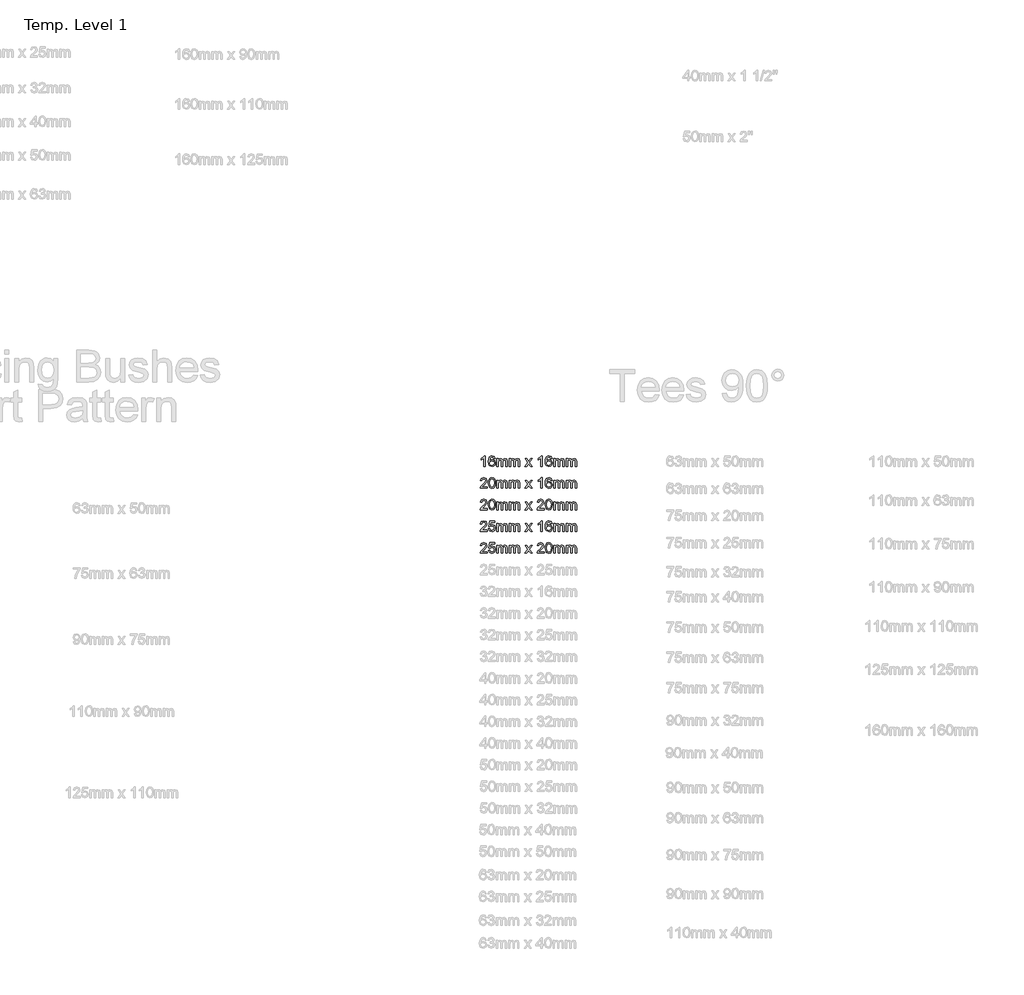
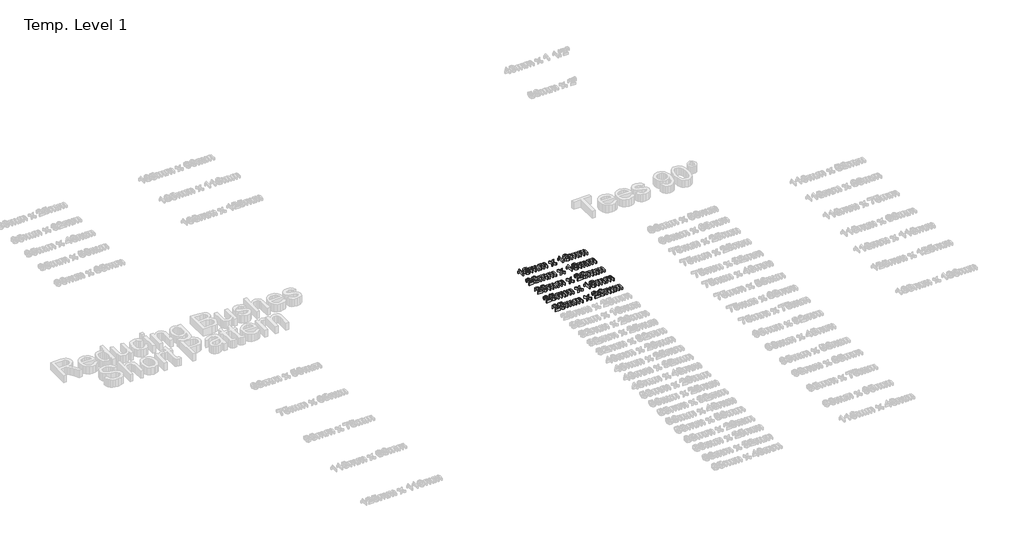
# One storey, part 42 of 62: 5 proxies.
"""IFC4 building model written with IfcOpenShell, lengths in millimetres."""

from ifc_helpers import new_model, si_unit, origin, origin_with_axes, place, context, project, spatial, polyline, outline, extrude, element, save

model = new_model("IFC4")

# Units and contexts
model_context = context("Model", 3, world=origin())
ifc_project = project(units=[si_unit("LENGTHUNIT", "METRE", prefix="MILLI")], contexts=[model_context])

# Site, building, storey
site = spatial("IfcSite", under=ifc_project)
building = spatial("IfcBuilding", under=site)
storey = spatial("IfcBuildingStorey", under=building, Name="Temp. Level 1", Elevation=0.0)

# Proxies
placement = place(None, origin())
element("IfcBuildingElementProxy", 1, Name="50mm Arial", ObjectType="50mm Arial", at=placement, inside=storey, context=model_context, shape_type="SweptSolid", body=[
    extrude(outline(polyline([(26438.7955575, -7369.5564984), (26432.6417113, -7369.5564984), (26432.6417113, -7331.1911138), (26426.8123844, -7335.3437581), (26420.334019, -7338.4507292), (26420.334019, -7332.6334215), (26429.3544517, -7326.87621), (26434.8292113, -7320.3257292), (26438.7955575, -7320.3257292), (26438.7955575, -7369.5564984)])), origin_with_axes(), (0.0, 0.0, 1.0), 15.0),
    extrude(outline(polyline([(26484.9494036, -7333.4026523), (26478.7955575, -7334.1718831), (26476.4638267, -7329.0396715), (26470.2979613, -7326.4795754), (26464.7450767, -7327.96996), (26460.5443556, -7333.5649119), (26458.7955575, -7344.53246), (26464.2222402, -7339.6226042), (26470.9469998, -7338.0180369), (26481.4037306, -7342.4050561), (26485.7186344, -7353.7391908), (26483.6873844, -7362.2307773), (26478.0984421, -7368.2403927), (26470.0335383, -7370.3257292), (26457.491471, -7364.7968831), (26453.8541512, -7357.4771715), (26452.6417113, -7346.5757292), (26453.9878652, -7334.3191186), (26458.0263267, -7325.93871), (26463.5401488, -7321.7289744), (26470.6825767, -7320.3257292), (26480.4061344, -7323.7992869), (26484.9494036, -7333.4026523)]), holes=[polyline([(26458.7955575, -7353.6430369), (26460.2198363, -7358.9735658), (26464.005894, -7362.8437581), (26469.552769, -7364.1718831), (26476.8063748, -7361.4194792), (26479.5647883, -7353.9435177), (26476.8424325, -7346.7860658), (26469.3003652, -7344.1718831), (26461.8544517, -7346.7860658), (26458.7955575, -7353.6430369)])]), origin_with_axes(), (0.0, 0.0, 1.0), 15.0),
    extrude(outline(polyline([(26492.6417113, -7369.5564984), (26492.6417113, -7333.4026523), (26498.7955575, -7333.4026523), (26498.7955575, -7339.3521715), (26503.0263267, -7334.4783734), (26509.0479613, -7332.6334215), (26515.2138267, -7334.5144311), (26518.6032498, -7339.7848638), (26523.4049325, -7334.4212821), (26529.4686344, -7332.6334215), (26537.5155094, -7335.6081811), (26540.334019, -7344.7728446), (26540.334019, -7369.5564984), (26534.1801729, -7369.5564984), (26534.1801729, -7347.4170754), (26533.6092594, -7342.2788542), (26531.5419517, -7339.7488061), (26528.0263267, -7338.7872677), (26521.974644, -7341.25121), (26519.5647883, -7349.1478446), (26519.5647883, -7369.5564984), (26513.4109421, -7369.5564984), (26513.4109421, -7346.7319792), (26511.9866633, -7340.7704408), (26507.3171921, -7338.7872677), (26502.7619036, -7340.1093831), (26499.7330575, -7343.9795754), (26498.7955575, -7351.3233254), (26498.7955575, -7369.5564984), (26492.6417113, -7369.5564984)])), origin_with_axes(), (0.0, 0.0, 1.0), 15.0),
    extrude(outline(polyline([(26549.5647883, -7369.5564984), (26549.5647883, -7333.4026523), (26555.7186344, -7333.4026523), (26555.7186344, -7339.3521715), (26559.9494036, -7334.4783734), (26565.9710383, -7332.6334215), (26572.1369036, -7334.5144311), (26575.5263267, -7339.7848638), (26580.3280094, -7334.4212821), (26586.3917113, -7332.6334215), (26594.4385863, -7335.6081811), (26597.257096, -7344.7728446), (26597.257096, -7369.5564984), (26591.1032498, -7369.5564984), (26591.1032498, -7347.4170754), (26590.5323363, -7342.2788542), (26588.4650286, -7339.7488061), (26584.9494036, -7338.7872677), (26578.897721, -7341.25121), (26576.4878652, -7349.1478446), (26576.4878652, -7369.5564984), (26570.334019, -7369.5564984), (26570.334019, -7346.7319792), (26568.9097402, -7340.7704408), (26564.240269, -7338.7872677), (26559.6849806, -7340.1093831), (26556.6561344, -7343.9795754), (26555.7186344, -7351.3233254), (26555.7186344, -7369.5564984), (26549.5647883, -7369.5564984)])), origin_with_axes(), (0.0, 0.0, 1.0), 15.0),
    extrude(outline(polyline([(26621.8724806, -7369.5564984), (26635.021519, -7351.3834215), (26622.6417113, -7333.4026523), (26630.0455575, -7333.4026523), (26636.0191152, -7342.0564984), (26638.8075767, -7346.1430369), (26641.2234421, -7342.8016908), (26648.0263267, -7333.4026523), (26655.4301729, -7333.4026523), (26642.4253652, -7351.3834215), (26654.9494036, -7369.5564984), (26647.5455575, -7369.5564984), (26640.0094998, -7358.6310177), (26638.6272883, -7356.6358254), (26629.2763267, -7369.5564984), (26621.8724806, -7369.5564984)])), origin_with_axes(), (0.0, 0.0, 1.0), 15.0),
    extrude(outline(polyline([(26701.1032498, -7369.5564984), (26694.9494036, -7369.5564984), (26694.9494036, -7331.1911138), (26689.1200767, -7335.3437581), (26682.6417113, -7338.4507292), (26682.6417113, -7332.6334215), (26691.662144, -7326.87621), (26697.1369036, -7320.3257292), (26701.1032498, -7320.3257292), (26701.1032498, -7369.5564984)])), origin_with_axes(), (0.0, 0.0, 1.0), 15.0),
    extrude(outline(polyline([(26747.257096, -7333.4026523), (26741.1032498, -7334.1718831), (26738.771519, -7329.0396715), (26732.6056536, -7326.4795754), (26727.052769, -7327.96996), (26722.8520479, -7333.5649119), (26721.1032498, -7344.53246), (26726.5299325, -7339.6226042), (26733.2546921, -7338.0180369), (26743.7114229, -7342.4050561), (26748.0263267, -7353.7391908), (26745.9950767, -7362.2307773), (26740.4061344, -7368.2403927), (26732.3412306, -7370.3257292), (26719.7991633, -7364.7968831), (26716.1618436, -7357.4771715), (26714.9494036, -7346.5757292), (26716.2955575, -7334.3191186), (26720.334019, -7325.93871), (26725.8478411, -7321.7289744), (26732.990269, -7320.3257292), (26742.7138267, -7323.7992869), (26747.257096, -7333.4026523)]), holes=[polyline([(26721.1032498, -7353.6430369), (26722.5275286, -7358.9735658), (26726.3135863, -7362.8437581), (26731.8604613, -7364.1718831), (26739.1140671, -7361.4194792), (26741.8724806, -7353.9435177), (26739.1501248, -7346.7860658), (26731.6080575, -7344.1718831), (26724.162144, -7346.7860658), (26721.1032498, -7353.6430369)])]), origin_with_axes(), (0.0, 0.0, 1.0), 15.0),
    extrude(outline(polyline([(26754.9494036, -7369.5564984), (26754.9494036, -7333.4026523), (26761.1032498, -7333.4026523), (26761.1032498, -7339.3521715), (26765.334019, -7334.4783734), (26771.3556536, -7332.6334215), (26777.521519, -7334.5144311), (26780.9109421, -7339.7848638), (26785.7126248, -7334.4212821), (26791.7763267, -7332.6334215), (26799.8232017, -7335.6081811), (26802.6417113, -7344.7728446), (26802.6417113, -7369.5564984), (26796.4878652, -7369.5564984), (26796.4878652, -7347.4170754), (26795.9169517, -7342.2788542), (26793.849644, -7339.7488061), (26790.334019, -7338.7872677), (26784.2823363, -7341.25121), (26781.8724806, -7349.1478446), (26781.8724806, -7369.5564984), (26775.7186344, -7369.5564984), (26775.7186344, -7346.7319792), (26774.2943556, -7340.7704408), (26769.6248844, -7338.7872677), (26765.069596, -7340.1093831), (26762.0407498, -7343.9795754), (26761.1032498, -7351.3233254), (26761.1032498, -7369.5564984), (26754.9494036, -7369.5564984)])), origin_with_axes(), (0.0, 0.0, 1.0), 15.0),
    extrude(outline(polyline([(26811.8724806, -7369.5564984), (26811.8724806, -7333.4026523), (26818.0263267, -7333.4026523), (26818.0263267, -7339.3521715), (26822.257096, -7334.4783734), (26828.2787306, -7332.6334215), (26834.444596, -7334.5144311), (26837.834019, -7339.7848638), (26842.6357017, -7334.4212821), (26848.6994036, -7332.6334215), (26856.7462786, -7335.6081811), (26859.5647883, -7344.7728446), (26859.5647883, -7369.5564984), (26853.4109421, -7369.5564984), (26853.4109421, -7347.4170754), (26852.8400286, -7342.2788542), (26850.772721, -7339.7488061), (26847.257096, -7338.7872677), (26841.2054133, -7341.25121), (26838.7955575, -7349.1478446), (26838.7955575, -7369.5564984), (26832.6417113, -7369.5564984), (26832.6417113, -7346.7319792), (26831.2174325, -7340.7704408), (26826.5479613, -7338.7872677), (26821.9926729, -7340.1093831), (26818.9638267, -7343.9795754), (26818.0263267, -7351.3233254), (26818.0263267, -7369.5564984), (26811.8724806, -7369.5564984)])), origin_with_axes(), (0.0, 0.0, 1.0), 15.0),
])
element("IfcBuildingElementProxy", 2, Name="50mm Arial", ObjectType="50mm Arial", at=placement, inside=storey, context=model_context, shape_type="SweptSolid", body=[
    extrude(outline(polyline([(26447.257096, -7463.4026523), (26447.257096, -7469.5564984), (26414.9494036, -7469.5564984), (26415.6104613, -7465.31371), (26419.3484421, -7458.7812581), (26427.052769, -7451.6478446), (26437.677769, -7441.3954408), (26440.334019, -7434.4242869), (26437.8280094, -7428.7812581), (26431.2835383, -7426.4795754), (26424.4626248, -7428.7271715), (26421.8724806, -7434.9411138), (26415.7186344, -7434.1718831), (26420.4361825, -7423.8714023), (26431.4157498, -7420.3257292), (26442.4313748, -7424.2680369), (26446.4878652, -7434.0516908), (26445.3941152, -7439.8870273), (26441.7582979, -7445.9206811), (26432.9421921, -7454.3521715), (26425.8628652, -7460.2716427), (26423.0864229, -7463.4026523), (26447.257096, -7463.4026523)])), origin_with_axes(), (0.0, 0.0, 1.0), 15.0),
    extrude(outline(polyline([(26453.4109421, -7445.3377484), (26455.2198363, -7431.173085), (26460.5924325, -7423.0060177), (26469.5647883, -7420.3257292), (26476.7522883, -7421.9122677), (26481.7162306, -7426.485585), (26484.600846, -7433.7692388), (26485.7186344, -7445.3377484), (26483.927769, -7459.4423158), (26478.5732017, -7467.6274119), (26469.5647883, -7470.3257292), (26458.3147883, -7465.6382292), (26454.6369036, -7457.3119071), (26453.4109421, -7445.3377484)]), holes=[polyline([(26459.5647883, -7445.3257292), (26462.4494036, -7460.6081811), (26469.5647883, -7464.1718831), (26476.6801729, -7460.5961619), (26479.5647883, -7445.3257292), (26476.7763267, -7430.2175561), (26469.4926729, -7426.4795754), (26462.5455575, -7429.7728446), (26459.5647883, -7445.3257292)])]), origin_with_axes(), (0.0, 0.0, 1.0), 15.0),
    extrude(outline(polyline([(26492.6417113, -7469.5564984), (26492.6417113, -7433.4026523), (26498.7955575, -7433.4026523), (26498.7955575, -7439.3521715), (26503.0263267, -7434.4783734), (26509.0479613, -7432.6334215), (26515.2138267, -7434.5144311), (26518.6032498, -7439.7848638), (26523.4049325, -7434.4212821), (26529.4686344, -7432.6334215), (26537.5155094, -7435.6081811), (26540.334019, -7444.7728446), (26540.334019, -7469.5564984), (26534.1801729, -7469.5564984), (26534.1801729, -7447.4170754), (26533.6092594, -7442.2788542), (26531.5419517, -7439.7488061), (26528.0263267, -7438.7872677), (26521.974644, -7441.25121), (26519.5647883, -7449.1478446), (26519.5647883, -7469.5564984), (26513.4109421, -7469.5564984), (26513.4109421, -7446.7319792), (26511.9866633, -7440.7704408), (26507.3171921, -7438.7872677), (26502.7619036, -7440.1093831), (26499.7330575, -7443.9795754), (26498.7955575, -7451.3233254), (26498.7955575, -7469.5564984), (26492.6417113, -7469.5564984)])), origin_with_axes(), (0.0, 0.0, 1.0), 15.0),
    extrude(outline(polyline([(26549.5647883, -7469.5564984), (26549.5647883, -7433.4026523), (26555.7186344, -7433.4026523), (26555.7186344, -7439.3521715), (26559.9494036, -7434.4783734), (26565.9710383, -7432.6334215), (26572.1369036, -7434.5144311), (26575.5263267, -7439.7848638), (26580.3280094, -7434.4212821), (26586.3917113, -7432.6334215), (26594.4385863, -7435.6081811), (26597.257096, -7444.7728446), (26597.257096, -7469.5564984), (26591.1032498, -7469.5564984), (26591.1032498, -7447.4170754), (26590.5323363, -7442.2788542), (26588.4650286, -7439.7488061), (26584.9494036, -7438.7872677), (26578.897721, -7441.25121), (26576.4878652, -7449.1478446), (26576.4878652, -7469.5564984), (26570.334019, -7469.5564984), (26570.334019, -7446.7319792), (26568.9097402, -7440.7704408), (26564.240269, -7438.7872677), (26559.6849806, -7440.1093831), (26556.6561344, -7443.9795754), (26555.7186344, -7451.3233254), (26555.7186344, -7469.5564984), (26549.5647883, -7469.5564984)])), origin_with_axes(), (0.0, 0.0, 1.0), 15.0),
    extrude(outline(polyline([(26621.8724806, -7469.5564984), (26635.021519, -7451.3834215), (26622.6417113, -7433.4026523), (26630.0455575, -7433.4026523), (26636.0191152, -7442.0564984), (26638.8075767, -7446.1430369), (26641.2234421, -7442.8016908), (26648.0263267, -7433.4026523), (26655.4301729, -7433.4026523), (26642.4253652, -7451.3834215), (26654.9494036, -7469.5564984), (26647.5455575, -7469.5564984), (26640.0094998, -7458.6310177), (26638.6272883, -7456.6358254), (26629.2763267, -7469.5564984), (26621.8724806, -7469.5564984)])), origin_with_axes(), (0.0, 0.0, 1.0), 15.0),
    extrude(outline(polyline([(26701.1032498, -7469.5564984), (26694.9494036, -7469.5564984), (26694.9494036, -7431.1911138), (26689.1200767, -7435.3437581), (26682.6417113, -7438.4507292), (26682.6417113, -7432.6334215), (26691.662144, -7426.87621), (26697.1369036, -7420.3257292), (26701.1032498, -7420.3257292), (26701.1032498, -7469.5564984)])), origin_with_axes(), (0.0, 0.0, 1.0), 15.0),
    extrude(outline(polyline([(26747.257096, -7433.4026523), (26741.1032498, -7434.1718831), (26738.771519, -7429.0396715), (26732.6056536, -7426.4795754), (26727.052769, -7427.96996), (26722.8520479, -7433.5649119), (26721.1032498, -7444.53246), (26726.5299325, -7439.6226042), (26733.2546921, -7438.0180369), (26743.7114229, -7442.4050561), (26748.0263267, -7453.7391908), (26745.9950767, -7462.2307773), (26740.4061344, -7468.2403927), (26732.3412306, -7470.3257292), (26719.7991633, -7464.7968831), (26716.1618436, -7457.4771715), (26714.9494036, -7446.5757292), (26716.2955575, -7434.3191186), (26720.334019, -7425.93871), (26725.8478411, -7421.7289744), (26732.990269, -7420.3257292), (26742.7138267, -7423.7992869), (26747.257096, -7433.4026523)]), holes=[polyline([(26721.1032498, -7453.6430369), (26722.5275286, -7458.9735658), (26726.3135863, -7462.8437581), (26731.8604613, -7464.1718831), (26739.1140671, -7461.4194792), (26741.8724806, -7453.9435177), (26739.1501248, -7446.7860658), (26731.6080575, -7444.1718831), (26724.162144, -7446.7860658), (26721.1032498, -7453.6430369)])]), origin_with_axes(), (0.0, 0.0, 1.0), 15.0),
    extrude(outline(polyline([(26754.9494036, -7469.5564984), (26754.9494036, -7433.4026523), (26761.1032498, -7433.4026523), (26761.1032498, -7439.3521715), (26765.334019, -7434.4783734), (26771.3556536, -7432.6334215), (26777.521519, -7434.5144311), (26780.9109421, -7439.7848638), (26785.7126248, -7434.4212821), (26791.7763267, -7432.6334215), (26799.8232017, -7435.6081811), (26802.6417113, -7444.7728446), (26802.6417113, -7469.5564984), (26796.4878652, -7469.5564984), (26796.4878652, -7447.4170754), (26795.9169517, -7442.2788542), (26793.849644, -7439.7488061), (26790.334019, -7438.7872677), (26784.2823363, -7441.25121), (26781.8724806, -7449.1478446), (26781.8724806, -7469.5564984), (26775.7186344, -7469.5564984), (26775.7186344, -7446.7319792), (26774.2943556, -7440.7704408), (26769.6248844, -7438.7872677), (26765.069596, -7440.1093831), (26762.0407498, -7443.9795754), (26761.1032498, -7451.3233254), (26761.1032498, -7469.5564984), (26754.9494036, -7469.5564984)])), origin_with_axes(), (0.0, 0.0, 1.0), 15.0),
    extrude(outline(polyline([(26811.8724806, -7469.5564984), (26811.8724806, -7433.4026523), (26818.0263267, -7433.4026523), (26818.0263267, -7439.3521715), (26822.257096, -7434.4783734), (26828.2787306, -7432.6334215), (26834.444596, -7434.5144311), (26837.834019, -7439.7848638), (26842.6357017, -7434.4212821), (26848.6994036, -7432.6334215), (26856.7462786, -7435.6081811), (26859.5647883, -7444.7728446), (26859.5647883, -7469.5564984), (26853.4109421, -7469.5564984), (26853.4109421, -7447.4170754), (26852.8400286, -7442.2788542), (26850.772721, -7439.7488061), (26847.257096, -7438.7872677), (26841.2054133, -7441.25121), (26838.7955575, -7449.1478446), (26838.7955575, -7469.5564984), (26832.6417113, -7469.5564984), (26832.6417113, -7446.7319792), (26831.2174325, -7440.7704408), (26826.5479613, -7438.7872677), (26821.9926729, -7440.1093831), (26818.9638267, -7443.9795754), (26818.0263267, -7451.3233254), (26818.0263267, -7469.5564984), (26811.8724806, -7469.5564984)])), origin_with_axes(), (0.0, 0.0, 1.0), 15.0),
])
element("IfcBuildingElementProxy", 3, Name="50mm Arial", ObjectType="50mm Arial", at=placement, inside=storey, context=model_context, shape_type="SweptSolid", body=[
    extrude(outline(polyline([(26447.257096, -7563.4026523), (26447.257096, -7569.5564984), (26414.9494036, -7569.5564984), (26415.6104613, -7565.31371), (26419.3484421, -7558.7812581), (26427.052769, -7551.6478446), (26437.677769, -7541.3954408), (26440.334019, -7534.4242869), (26437.8280094, -7528.7812581), (26431.2835383, -7526.4795754), (26424.4626248, -7528.7271715), (26421.8724806, -7534.9411138), (26415.7186344, -7534.1718831), (26420.4361825, -7523.8714023), (26431.4157498, -7520.3257292), (26442.4313748, -7524.2680369), (26446.4878652, -7534.0516908), (26445.3941152, -7539.8870273), (26441.7582979, -7545.9206811), (26432.9421921, -7554.3521715), (26425.8628652, -7560.2716427), (26423.0864229, -7563.4026523), (26447.257096, -7563.4026523)])), origin_with_axes(), (0.0, 0.0, 1.0), 15.0),
    extrude(outline(polyline([(26453.4109421, -7545.3377484), (26455.2198363, -7531.173085), (26460.5924325, -7523.0060177), (26469.5647883, -7520.3257292), (26476.7522883, -7521.9122677), (26481.7162306, -7526.485585), (26484.600846, -7533.7692388), (26485.7186344, -7545.3377484), (26483.927769, -7559.4423158), (26478.5732017, -7567.6274119), (26469.5647883, -7570.3257292), (26458.3147883, -7565.6382292), (26454.6369036, -7557.3119071), (26453.4109421, -7545.3377484)]), holes=[polyline([(26459.5647883, -7545.3257292), (26462.4494036, -7560.6081811), (26469.5647883, -7564.1718831), (26476.6801729, -7560.5961619), (26479.5647883, -7545.3257292), (26476.7763267, -7530.2175561), (26469.4926729, -7526.4795754), (26462.5455575, -7529.7728446), (26459.5647883, -7545.3257292)])]), origin_with_axes(), (0.0, 0.0, 1.0), 15.0),
    extrude(outline(polyline([(26492.6417113, -7569.5564984), (26492.6417113, -7533.4026523), (26498.7955575, -7533.4026523), (26498.7955575, -7539.3521715), (26503.0263267, -7534.4783734), (26509.0479613, -7532.6334215), (26515.2138267, -7534.5144311), (26518.6032498, -7539.7848638), (26523.4049325, -7534.4212821), (26529.4686344, -7532.6334215), (26537.5155094, -7535.6081811), (26540.334019, -7544.7728446), (26540.334019, -7569.5564984), (26534.1801729, -7569.5564984), (26534.1801729, -7547.4170754), (26533.6092594, -7542.2788542), (26531.5419517, -7539.7488061), (26528.0263267, -7538.7872677), (26521.974644, -7541.25121), (26519.5647883, -7549.1478446), (26519.5647883, -7569.5564984), (26513.4109421, -7569.5564984), (26513.4109421, -7546.7319792), (26511.9866633, -7540.7704408), (26507.3171921, -7538.7872677), (26502.7619036, -7540.1093831), (26499.7330575, -7543.9795754), (26498.7955575, -7551.3233254), (26498.7955575, -7569.5564984), (26492.6417113, -7569.5564984)])), origin_with_axes(), (0.0, 0.0, 1.0), 15.0),
    extrude(outline(polyline([(26549.5647883, -7569.5564984), (26549.5647883, -7533.4026523), (26555.7186344, -7533.4026523), (26555.7186344, -7539.3521715), (26559.9494036, -7534.4783734), (26565.9710383, -7532.6334215), (26572.1369036, -7534.5144311), (26575.5263267, -7539.7848638), (26580.3280094, -7534.4212821), (26586.3917113, -7532.6334215), (26594.4385863, -7535.6081811), (26597.257096, -7544.7728446), (26597.257096, -7569.5564984), (26591.1032498, -7569.5564984), (26591.1032498, -7547.4170754), (26590.5323363, -7542.2788542), (26588.4650286, -7539.7488061), (26584.9494036, -7538.7872677), (26578.897721, -7541.25121), (26576.4878652, -7549.1478446), (26576.4878652, -7569.5564984), (26570.334019, -7569.5564984), (26570.334019, -7546.7319792), (26568.9097402, -7540.7704408), (26564.240269, -7538.7872677), (26559.6849806, -7540.1093831), (26556.6561344, -7543.9795754), (26555.7186344, -7551.3233254), (26555.7186344, -7569.5564984), (26549.5647883, -7569.5564984)])), origin_with_axes(), (0.0, 0.0, 1.0), 15.0),
    extrude(outline(polyline([(26621.8724806, -7569.5564984), (26635.021519, -7551.3834215), (26622.6417113, -7533.4026523), (26630.0455575, -7533.4026523), (26636.0191152, -7542.0564984), (26638.8075767, -7546.1430369), (26641.2234421, -7542.8016908), (26648.0263267, -7533.4026523), (26655.4301729, -7533.4026523), (26642.4253652, -7551.3834215), (26654.9494036, -7569.5564984), (26647.5455575, -7569.5564984), (26640.0094998, -7558.6310177), (26638.6272883, -7556.6358254), (26629.2763267, -7569.5564984), (26621.8724806, -7569.5564984)])), origin_with_axes(), (0.0, 0.0, 1.0), 15.0),
    extrude(outline(polyline([(26709.5647883, -7563.4026523), (26709.5647883, -7569.5564984), (26677.257096, -7569.5564984), (26677.9181536, -7565.31371), (26681.6561344, -7558.7812581), (26689.3604613, -7551.6478446), (26699.9854613, -7541.3954408), (26702.6417113, -7534.4242869), (26700.1357017, -7528.7812581), (26693.5912306, -7526.4795754), (26686.7703171, -7528.7271715), (26684.1801729, -7534.9411138), (26678.0263267, -7534.1718831), (26682.7438748, -7523.8714023), (26693.7234421, -7520.3257292), (26704.7390671, -7524.2680369), (26708.7955575, -7534.0516908), (26707.7018075, -7539.8870273), (26704.0659902, -7545.9206811), (26695.2498844, -7554.3521715), (26688.1705575, -7560.2716427), (26685.3941152, -7563.4026523), (26709.5647883, -7563.4026523)])), origin_with_axes(), (0.0, 0.0, 1.0), 15.0),
    extrude(outline(polyline([(26715.7186344, -7545.3377484), (26717.5275286, -7531.173085), (26722.9001248, -7523.0060177), (26731.8724806, -7520.3257292), (26739.0599806, -7521.9122677), (26744.0239229, -7526.485585), (26746.9085383, -7533.7692388), (26748.0263267, -7545.3377484), (26746.2354613, -7559.4423158), (26740.880894, -7567.6274119), (26731.8724806, -7570.3257292), (26720.6224806, -7565.6382292), (26716.944596, -7557.3119071), (26715.7186344, -7545.3377484)]), holes=[polyline([(26721.8724806, -7545.3257292), (26724.757096, -7560.6081811), (26731.8724806, -7564.1718831), (26738.9878652, -7560.5961619), (26741.8724806, -7545.3257292), (26739.084019, -7530.2175561), (26731.8003652, -7526.4795754), (26724.8532498, -7529.7728446), (26721.8724806, -7545.3257292)])]), origin_with_axes(), (0.0, 0.0, 1.0), 15.0),
    extrude(outline(polyline([(26754.9494036, -7569.5564984), (26754.9494036, -7533.4026523), (26761.1032498, -7533.4026523), (26761.1032498, -7539.3521715), (26765.334019, -7534.4783734), (26771.3556536, -7532.6334215), (26777.521519, -7534.5144311), (26780.9109421, -7539.7848638), (26785.7126248, -7534.4212821), (26791.7763267, -7532.6334215), (26799.8232017, -7535.6081811), (26802.6417113, -7544.7728446), (26802.6417113, -7569.5564984), (26796.4878652, -7569.5564984), (26796.4878652, -7547.4170754), (26795.9169517, -7542.2788542), (26793.849644, -7539.7488061), (26790.334019, -7538.7872677), (26784.2823363, -7541.25121), (26781.8724806, -7549.1478446), (26781.8724806, -7569.5564984), (26775.7186344, -7569.5564984), (26775.7186344, -7546.7319792), (26774.2943556, -7540.7704408), (26769.6248844, -7538.7872677), (26765.069596, -7540.1093831), (26762.0407498, -7543.9795754), (26761.1032498, -7551.3233254), (26761.1032498, -7569.5564984), (26754.9494036, -7569.5564984)])), origin_with_axes(), (0.0, 0.0, 1.0), 15.0),
    extrude(outline(polyline([(26811.8724806, -7569.5564984), (26811.8724806, -7533.4026523), (26818.0263267, -7533.4026523), (26818.0263267, -7539.3521715), (26822.257096, -7534.4783734), (26828.2787306, -7532.6334215), (26834.444596, -7534.5144311), (26837.834019, -7539.7848638), (26842.6357017, -7534.4212821), (26848.6994036, -7532.6334215), (26856.7462786, -7535.6081811), (26859.5647883, -7544.7728446), (26859.5647883, -7569.5564984), (26853.4109421, -7569.5564984), (26853.4109421, -7547.4170754), (26852.8400286, -7542.2788542), (26850.772721, -7539.7488061), (26847.257096, -7538.7872677), (26841.2054133, -7541.25121), (26838.7955575, -7549.1478446), (26838.7955575, -7569.5564984), (26832.6417113, -7569.5564984), (26832.6417113, -7546.7319792), (26831.2174325, -7540.7704408), (26826.5479613, -7538.7872677), (26821.9926729, -7540.1093831), (26818.9638267, -7543.9795754), (26818.0263267, -7551.3233254), (26818.0263267, -7569.5564984), (26811.8724806, -7569.5564984)])), origin_with_axes(), (0.0, 0.0, 1.0), 15.0),
])
element("IfcBuildingElementProxy", 4, Name="50mm Arial", ObjectType="50mm Arial", at=placement, inside=storey, context=model_context, shape_type="SweptSolid", body=[
    extrude(outline(polyline([(26447.257096, -7663.4026523), (26447.257096, -7669.5564984), (26414.9494036, -7669.5564984), (26415.6104613, -7665.31371), (26419.3484421, -7658.7812581), (26427.052769, -7651.6478446), (26437.677769, -7641.3954408), (26440.334019, -7634.4242869), (26437.8280094, -7628.7812581), (26431.2835383, -7626.4795754), (26424.4626248, -7628.7271715), (26421.8724806, -7634.9411138), (26415.7186344, -7634.1718831), (26420.4361825, -7623.8714023), (26431.4157498, -7620.3257292), (26442.4313748, -7624.2680369), (26446.4878652, -7634.0516908), (26445.3941152, -7639.8870273), (26441.7582979, -7645.9206811), (26432.9421921, -7654.3521715), (26425.8628652, -7660.2716427), (26423.0864229, -7663.4026523), (26447.257096, -7663.4026523)])), origin_with_axes(), (0.0, 0.0, 1.0), 15.0),
    extrude(outline(polyline([(26453.4109421, -7656.4795754), (26459.5647883, -7655.7103446), (26462.6657498, -7662.0504888), (26469.0960383, -7664.1718831), (26476.8123844, -7661.2211619), (26479.5647883, -7653.3906331), (26476.9866633, -7646.0829408), (26469.1921921, -7643.4026523), (26463.7895479, -7644.4723638), (26460.334019, -7647.2488061), (26454.1801729, -7646.4795754), (26459.5647883, -7621.09496), (26483.4109421, -7621.09496), (26483.4109421, -7627.2488061), (26464.5407498, -7627.2488061), (26461.9085383, -7640.8064984), (26470.9109421, -7637.2488061), (26481.4337786, -7641.6598638), (26485.7186344, -7653.0060177), (26481.8604613, -7664.4242869), (26476.319596, -7668.8503686), (26469.0719998, -7670.3257292), (26458.2126248, -7666.5336619), (26453.4109421, -7656.4795754)])), origin_with_axes(), (0.0, 0.0, 1.0), 15.0),
    extrude(outline(polyline([(26492.6417113, -7669.5564984), (26492.6417113, -7633.4026523), (26498.7955575, -7633.4026523), (26498.7955575, -7639.3521715), (26503.0263267, -7634.4783734), (26509.0479613, -7632.6334215), (26515.2138267, -7634.5144311), (26518.6032498, -7639.7848638), (26523.4049325, -7634.4212821), (26529.4686344, -7632.6334215), (26537.5155094, -7635.6081811), (26540.334019, -7644.7728446), (26540.334019, -7669.5564984), (26534.1801729, -7669.5564984), (26534.1801729, -7647.4170754), (26533.6092594, -7642.2788542), (26531.5419517, -7639.7488061), (26528.0263267, -7638.7872677), (26521.974644, -7641.25121), (26519.5647883, -7649.1478446), (26519.5647883, -7669.5564984), (26513.4109421, -7669.5564984), (26513.4109421, -7646.7319792), (26511.9866633, -7640.7704408), (26507.3171921, -7638.7872677), (26502.7619036, -7640.1093831), (26499.7330575, -7643.9795754), (26498.7955575, -7651.3233254), (26498.7955575, -7669.5564984), (26492.6417113, -7669.5564984)])), origin_with_axes(), (0.0, 0.0, 1.0), 15.0),
    extrude(outline(polyline([(26549.5647883, -7669.5564984), (26549.5647883, -7633.4026523), (26555.7186344, -7633.4026523), (26555.7186344, -7639.3521715), (26559.9494036, -7634.4783734), (26565.9710383, -7632.6334215), (26572.1369036, -7634.5144311), (26575.5263267, -7639.7848638), (26580.3280094, -7634.4212821), (26586.3917113, -7632.6334215), (26594.4385863, -7635.6081811), (26597.257096, -7644.7728446), (26597.257096, -7669.5564984), (26591.1032498, -7669.5564984), (26591.1032498, -7647.4170754), (26590.5323363, -7642.2788542), (26588.4650286, -7639.7488061), (26584.9494036, -7638.7872677), (26578.897721, -7641.25121), (26576.4878652, -7649.1478446), (26576.4878652, -7669.5564984), (26570.334019, -7669.5564984), (26570.334019, -7646.7319792), (26568.9097402, -7640.7704408), (26564.240269, -7638.7872677), (26559.6849806, -7640.1093831), (26556.6561344, -7643.9795754), (26555.7186344, -7651.3233254), (26555.7186344, -7669.5564984), (26549.5647883, -7669.5564984)])), origin_with_axes(), (0.0, 0.0, 1.0), 15.0),
    extrude(outline(polyline([(26621.8724806, -7669.5564984), (26635.021519, -7651.3834215), (26622.6417113, -7633.4026523), (26630.0455575, -7633.4026523), (26636.0191152, -7642.0564984), (26638.8075767, -7646.1430369), (26641.2234421, -7642.8016908), (26648.0263267, -7633.4026523), (26655.4301729, -7633.4026523), (26642.4253652, -7651.3834215), (26654.9494036, -7669.5564984), (26647.5455575, -7669.5564984), (26640.0094998, -7658.6310177), (26638.6272883, -7656.6358254), (26629.2763267, -7669.5564984), (26621.8724806, -7669.5564984)])), origin_with_axes(), (0.0, 0.0, 1.0), 15.0),
    extrude(outline(polyline([(26701.1032498, -7669.5564984), (26694.9494036, -7669.5564984), (26694.9494036, -7631.1911138), (26689.1200767, -7635.3437581), (26682.6417113, -7638.4507292), (26682.6417113, -7632.6334215), (26691.662144, -7626.87621), (26697.1369036, -7620.3257292), (26701.1032498, -7620.3257292), (26701.1032498, -7669.5564984)])), origin_with_axes(), (0.0, 0.0, 1.0), 15.0),
    extrude(outline(polyline([(26747.257096, -7633.4026523), (26741.1032498, -7634.1718831), (26738.771519, -7629.0396715), (26732.6056536, -7626.4795754), (26727.052769, -7627.96996), (26722.8520479, -7633.5649119), (26721.1032498, -7644.53246), (26726.5299325, -7639.6226042), (26733.2546921, -7638.0180369), (26743.7114229, -7642.4050561), (26748.0263267, -7653.7391908), (26745.9950767, -7662.2307773), (26740.4061344, -7668.2403927), (26732.3412306, -7670.3257292), (26719.7991633, -7664.7968831), (26716.1618436, -7657.4771715), (26714.9494036, -7646.5757292), (26716.2955575, -7634.3191186), (26720.334019, -7625.93871), (26725.8478411, -7621.7289744), (26732.990269, -7620.3257292), (26742.7138267, -7623.7992869), (26747.257096, -7633.4026523)]), holes=[polyline([(26721.1032498, -7653.6430369), (26722.5275286, -7658.9735658), (26726.3135863, -7662.8437581), (26731.8604613, -7664.1718831), (26739.1140671, -7661.4194792), (26741.8724806, -7653.9435177), (26739.1501248, -7646.7860658), (26731.6080575, -7644.1718831), (26724.162144, -7646.7860658), (26721.1032498, -7653.6430369)])]), origin_with_axes(), (0.0, 0.0, 1.0), 15.0),
    extrude(outline(polyline([(26754.9494036, -7669.5564984), (26754.9494036, -7633.4026523), (26761.1032498, -7633.4026523), (26761.1032498, -7639.3521715), (26765.334019, -7634.4783734), (26771.3556536, -7632.6334215), (26777.521519, -7634.5144311), (26780.9109421, -7639.7848638), (26785.7126248, -7634.4212821), (26791.7763267, -7632.6334215), (26799.8232017, -7635.6081811), (26802.6417113, -7644.7728446), (26802.6417113, -7669.5564984), (26796.4878652, -7669.5564984), (26796.4878652, -7647.4170754), (26795.9169517, -7642.2788542), (26793.849644, -7639.7488061), (26790.334019, -7638.7872677), (26784.2823363, -7641.25121), (26781.8724806, -7649.1478446), (26781.8724806, -7669.5564984), (26775.7186344, -7669.5564984), (26775.7186344, -7646.7319792), (26774.2943556, -7640.7704408), (26769.6248844, -7638.7872677), (26765.069596, -7640.1093831), (26762.0407498, -7643.9795754), (26761.1032498, -7651.3233254), (26761.1032498, -7669.5564984), (26754.9494036, -7669.5564984)])), origin_with_axes(), (0.0, 0.0, 1.0), 15.0),
    extrude(outline(polyline([(26811.8724806, -7669.5564984), (26811.8724806, -7633.4026523), (26818.0263267, -7633.4026523), (26818.0263267, -7639.3521715), (26822.257096, -7634.4783734), (26828.2787306, -7632.6334215), (26834.444596, -7634.5144311), (26837.834019, -7639.7848638), (26842.6357017, -7634.4212821), (26848.6994036, -7632.6334215), (26856.7462786, -7635.6081811), (26859.5647883, -7644.7728446), (26859.5647883, -7669.5564984), (26853.4109421, -7669.5564984), (26853.4109421, -7647.4170754), (26852.8400286, -7642.2788542), (26850.772721, -7639.7488061), (26847.257096, -7638.7872677), (26841.2054133, -7641.25121), (26838.7955575, -7649.1478446), (26838.7955575, -7669.5564984), (26832.6417113, -7669.5564984), (26832.6417113, -7646.7319792), (26831.2174325, -7640.7704408), (26826.5479613, -7638.7872677), (26821.9926729, -7640.1093831), (26818.9638267, -7643.9795754), (26818.0263267, -7651.3233254), (26818.0263267, -7669.5564984), (26811.8724806, -7669.5564984)])), origin_with_axes(), (0.0, 0.0, 1.0), 15.0),
])
element("IfcBuildingElementProxy", 5, Name="50mm Arial", ObjectType="50mm Arial", at=placement, inside=storey, context=model_context, shape_type="SweptSolid", body=[
    extrude(outline(polyline([(26447.257096, -7763.4026523), (26447.257096, -7769.5564984), (26414.9494036, -7769.5564984), (26415.6104613, -7765.31371), (26419.3484421, -7758.7812581), (26427.052769, -7751.6478446), (26437.677769, -7741.3954408), (26440.334019, -7734.4242869), (26437.8280094, -7728.7812581), (26431.2835383, -7726.4795754), (26424.4626248, -7728.7271715), (26421.8724806, -7734.9411138), (26415.7186344, -7734.1718831), (26420.4361825, -7723.8714023), (26431.4157498, -7720.3257292), (26442.4313748, -7724.2680369), (26446.4878652, -7734.0516908), (26445.3941152, -7739.8870273), (26441.7582979, -7745.9206811), (26432.9421921, -7754.3521715), (26425.8628652, -7760.2716427), (26423.0864229, -7763.4026523), (26447.257096, -7763.4026523)])), origin_with_axes(), (0.0, 0.0, 1.0), 15.0),
    extrude(outline(polyline([(26453.4109421, -7756.4795754), (26459.5647883, -7755.7103446), (26462.6657498, -7762.0504888), (26469.0960383, -7764.1718831), (26476.8123844, -7761.2211619), (26479.5647883, -7753.3906331), (26476.9866633, -7746.0829408), (26469.1921921, -7743.4026523), (26463.7895479, -7744.4723638), (26460.334019, -7747.2488061), (26454.1801729, -7746.4795754), (26459.5647883, -7721.09496), (26483.4109421, -7721.09496), (26483.4109421, -7727.2488061), (26464.5407498, -7727.2488061), (26461.9085383, -7740.8064984), (26470.9109421, -7737.2488061), (26481.4337786, -7741.6598638), (26485.7186344, -7753.0060177), (26481.8604613, -7764.4242869), (26476.319596, -7768.8503686), (26469.0719998, -7770.3257292), (26458.2126248, -7766.5336619), (26453.4109421, -7756.4795754)])), origin_with_axes(), (0.0, 0.0, 1.0), 15.0),
    extrude(outline(polyline([(26492.6417113, -7769.5564984), (26492.6417113, -7733.4026523), (26498.7955575, -7733.4026523), (26498.7955575, -7739.3521715), (26503.0263267, -7734.4783734), (26509.0479613, -7732.6334215), (26515.2138267, -7734.5144311), (26518.6032498, -7739.7848638), (26523.4049325, -7734.4212821), (26529.4686344, -7732.6334215), (26537.5155094, -7735.6081811), (26540.334019, -7744.7728446), (26540.334019, -7769.5564984), (26534.1801729, -7769.5564984), (26534.1801729, -7747.4170754), (26533.6092594, -7742.2788542), (26531.5419517, -7739.7488061), (26528.0263267, -7738.7872677), (26521.974644, -7741.25121), (26519.5647883, -7749.1478446), (26519.5647883, -7769.5564984), (26513.4109421, -7769.5564984), (26513.4109421, -7746.7319792), (26511.9866633, -7740.7704408), (26507.3171921, -7738.7872677), (26502.7619036, -7740.1093831), (26499.7330575, -7743.9795754), (26498.7955575, -7751.3233254), (26498.7955575, -7769.5564984), (26492.6417113, -7769.5564984)])), origin_with_axes(), (0.0, 0.0, 1.0), 15.0),
    extrude(outline(polyline([(26549.5647883, -7769.5564984), (26549.5647883, -7733.4026523), (26555.7186344, -7733.4026523), (26555.7186344, -7739.3521715), (26559.9494036, -7734.4783734), (26565.9710383, -7732.6334215), (26572.1369036, -7734.5144311), (26575.5263267, -7739.7848638), (26580.3280094, -7734.4212821), (26586.3917113, -7732.6334215), (26594.4385863, -7735.6081811), (26597.257096, -7744.7728446), (26597.257096, -7769.5564984), (26591.1032498, -7769.5564984), (26591.1032498, -7747.4170754), (26590.5323363, -7742.2788542), (26588.4650286, -7739.7488061), (26584.9494036, -7738.7872677), (26578.897721, -7741.25121), (26576.4878652, -7749.1478446), (26576.4878652, -7769.5564984), (26570.334019, -7769.5564984), (26570.334019, -7746.7319792), (26568.9097402, -7740.7704408), (26564.240269, -7738.7872677), (26559.6849806, -7740.1093831), (26556.6561344, -7743.9795754), (26555.7186344, -7751.3233254), (26555.7186344, -7769.5564984), (26549.5647883, -7769.5564984)])), origin_with_axes(), (0.0, 0.0, 1.0), 15.0),
    extrude(outline(polyline([(26621.8724806, -7769.5564984), (26635.021519, -7751.3834215), (26622.6417113, -7733.4026523), (26630.0455575, -7733.4026523), (26636.0191152, -7742.0564984), (26638.8075767, -7746.1430369), (26641.2234421, -7742.8016908), (26648.0263267, -7733.4026523), (26655.4301729, -7733.4026523), (26642.4253652, -7751.3834215), (26654.9494036, -7769.5564984), (26647.5455575, -7769.5564984), (26640.0094998, -7758.6310177), (26638.6272883, -7756.6358254), (26629.2763267, -7769.5564984), (26621.8724806, -7769.5564984)])), origin_with_axes(), (0.0, 0.0, 1.0), 15.0),
    extrude(outline(polyline([(26709.5647883, -7763.4026523), (26709.5647883, -7769.5564984), (26677.257096, -7769.5564984), (26677.9181536, -7765.31371), (26681.6561344, -7758.7812581), (26689.3604613, -7751.6478446), (26699.9854613, -7741.3954408), (26702.6417113, -7734.4242869), (26700.1357017, -7728.7812581), (26693.5912306, -7726.4795754), (26686.7703171, -7728.7271715), (26684.1801729, -7734.9411138), (26678.0263267, -7734.1718831), (26682.7438748, -7723.8714023), (26693.7234421, -7720.3257292), (26704.7390671, -7724.2680369), (26708.7955575, -7734.0516908), (26707.7018075, -7739.8870273), (26704.0659902, -7745.9206811), (26695.2498844, -7754.3521715), (26688.1705575, -7760.2716427), (26685.3941152, -7763.4026523), (26709.5647883, -7763.4026523)])), origin_with_axes(), (0.0, 0.0, 1.0), 15.0),
    extrude(outline(polyline([(26715.7186344, -7745.3377484), (26717.5275286, -7731.173085), (26722.9001248, -7723.0060177), (26731.8724806, -7720.3257292), (26739.0599806, -7721.9122677), (26744.0239229, -7726.485585), (26746.9085383, -7733.7692388), (26748.0263267, -7745.3377484), (26746.2354613, -7759.4423158), (26740.880894, -7767.6274119), (26731.8724806, -7770.3257292), (26720.6224806, -7765.6382292), (26716.944596, -7757.3119071), (26715.7186344, -7745.3377484)]), holes=[polyline([(26721.8724806, -7745.3257292), (26724.757096, -7760.6081811), (26731.8724806, -7764.1718831), (26738.9878652, -7760.5961619), (26741.8724806, -7745.3257292), (26739.084019, -7730.2175561), (26731.8003652, -7726.4795754), (26724.8532498, -7729.7728446), (26721.8724806, -7745.3257292)])]), origin_with_axes(), (0.0, 0.0, 1.0), 15.0),
    extrude(outline(polyline([(26754.9494036, -7769.5564984), (26754.9494036, -7733.4026523), (26761.1032498, -7733.4026523), (26761.1032498, -7739.3521715), (26765.334019, -7734.4783734), (26771.3556536, -7732.6334215), (26777.521519, -7734.5144311), (26780.9109421, -7739.7848638), (26785.7126248, -7734.4212821), (26791.7763267, -7732.6334215), (26799.8232017, -7735.6081811), (26802.6417113, -7744.7728446), (26802.6417113, -7769.5564984), (26796.4878652, -7769.5564984), (26796.4878652, -7747.4170754), (26795.9169517, -7742.2788542), (26793.849644, -7739.7488061), (26790.334019, -7738.7872677), (26784.2823363, -7741.25121), (26781.8724806, -7749.1478446), (26781.8724806, -7769.5564984), (26775.7186344, -7769.5564984), (26775.7186344, -7746.7319792), (26774.2943556, -7740.7704408), (26769.6248844, -7738.7872677), (26765.069596, -7740.1093831), (26762.0407498, -7743.9795754), (26761.1032498, -7751.3233254), (26761.1032498, -7769.5564984), (26754.9494036, -7769.5564984)])), origin_with_axes(), (0.0, 0.0, 1.0), 15.0),
    extrude(outline(polyline([(26811.8724806, -7769.5564984), (26811.8724806, -7733.4026523), (26818.0263267, -7733.4026523), (26818.0263267, -7739.3521715), (26822.257096, -7734.4783734), (26828.2787306, -7732.6334215), (26834.444596, -7734.5144311), (26837.834019, -7739.7848638), (26842.6357017, -7734.4212821), (26848.6994036, -7732.6334215), (26856.7462786, -7735.6081811), (26859.5647883, -7744.7728446), (26859.5647883, -7769.5564984), (26853.4109421, -7769.5564984), (26853.4109421, -7747.4170754), (26852.8400286, -7742.2788542), (26850.772721, -7739.7488061), (26847.257096, -7738.7872677), (26841.2054133, -7741.25121), (26838.7955575, -7749.1478446), (26838.7955575, -7769.5564984), (26832.6417113, -7769.5564984), (26832.6417113, -7746.7319792), (26831.2174325, -7740.7704408), (26826.5479613, -7738.7872677), (26821.9926729, -7740.1093831), (26818.9638267, -7743.9795754), (26818.0263267, -7751.3233254), (26818.0263267, -7769.5564984), (26811.8724806, -7769.5564984)])), origin_with_axes(), (0.0, 0.0, 1.0), 15.0),
])

save(model, "model.ifc")
